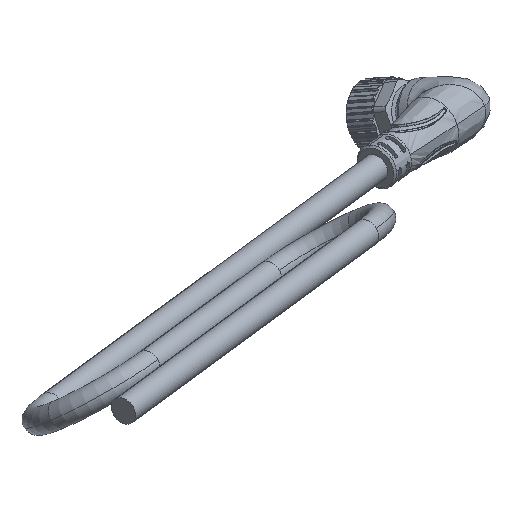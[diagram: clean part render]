
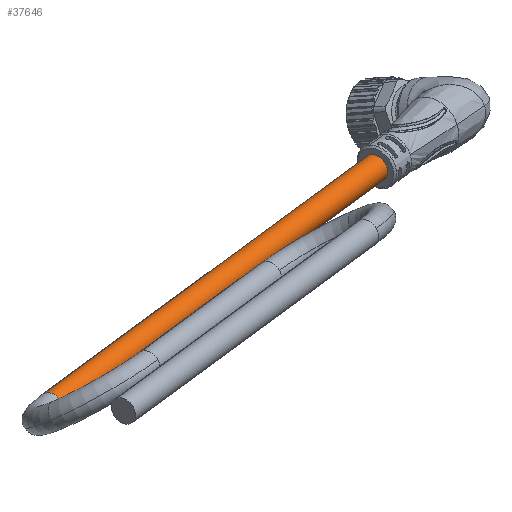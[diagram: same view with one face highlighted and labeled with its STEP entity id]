
A CAD part, isometric view. The second image highlights one B-rep face of the part: STEP entity #37646.
In plain terms, the highlighted cylindrical face has radius 2 mm (diameter 4 mm), a partial arc.
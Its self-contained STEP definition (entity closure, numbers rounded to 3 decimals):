
#498 = DIRECTION ( 'NONE',  ( 0., 0., -1. ) ) ;
#934 = ORIENTED_EDGE ( 'NONE', *, *, #38261, .F. ) ;
#1097 = DIRECTION ( 'NONE',  ( -1., 0., 0. ) ) ;
#2062 = VECTOR ( 'NONE', #29044, 1000. ) ;
#2172 = AXIS2_PLACEMENT_3D ( 'NONE', #12131, #25026, #8673 ) ;
#5734 = CARTESIAN_POINT ( 'NONE',  ( 0., 40., 0. ) ) ;
#5802 = CARTESIAN_POINT ( 'NONE',  ( 2., 40., 0. ) ) ;
#7804 = CARTESIAN_POINT ( 'NONE',  ( 0., 40., -90. ) ) ;
#7987 = CIRCLE ( 'NONE', #11445, 2. ) ;
#8332 = ORIENTED_EDGE ( 'NONE', *, *, #8935, .T. ) ;
#8673 = DIRECTION ( 'NONE',  ( -1., 0., 0. ) ) ;
#8813 = LINE ( 'NONE', #5802, #2062 ) ;
#8935 = EDGE_CURVE ( 'NONE', #22143, #15083, #7987, .T. ) ;
#11142 = EDGE_CURVE ( 'NONE', #19943, #22143, #15254, .T. ) ;
#11445 = AXIS2_PLACEMENT_3D ( 'NONE', #5734, #28973, #12423 ) ;
#12131 = CARTESIAN_POINT ( 'NONE',  ( 0., 40., 0. ) ) ;
#12271 = CARTESIAN_POINT ( 'NONE',  ( 2., 40., 0. ) ) ;
#12423 = DIRECTION ( 'NONE',  ( -1., 0., 0. ) ) ;
#12756 = EDGE_CURVE ( 'NONE', #29635, #15629, #42528, .T. ) ;
#13036 = CARTESIAN_POINT ( 'NONE',  ( -2., 40., -90. ) ) ;
#15083 = VERTEX_POINT ( 'NONE', #40235 ) ;
#15254 = CIRCLE ( 'NONE', #2172, 2. ) ;
#15629 = VERTEX_POINT ( 'NONE', #13036 ) ;
#16244 = LINE ( 'NONE', #39285, #22709 ) ;
#16918 = CARTESIAN_POINT ( 'NONE',  ( 2., 40., -90. ) ) ;
#17308 = CARTESIAN_POINT ( 'NONE',  ( 0., 38., 0. ) ) ;
#19943 = VERTEX_POINT ( 'NONE', #12271 ) ;
#20933 = DIRECTION ( 'NONE',  ( 0., 0., -1. ) ) ;
#21859 = EDGE_LOOP ( 'NONE', ( #934, #22607, #8332, #41439, #31106 ) ) ;
#22143 = VERTEX_POINT ( 'NONE', #17308 ) ;
#22607 = ORIENTED_EDGE ( 'NONE', *, *, #11142, .T. ) ;
#22709 = VECTOR ( 'NONE', #498, 1000. ) ;
#23418 = AXIS2_PLACEMENT_3D ( 'NONE', #37056, #27149, #1097 ) ;
#23725 = FACE_OUTER_BOUND ( 'NONE', #21859, .T. ) ;
#25026 = DIRECTION ( 'NONE',  ( 0., 0., -1. ) ) ;
#27149 = DIRECTION ( 'NONE',  ( 0., 0., -1. ) ) ;
#28973 = DIRECTION ( 'NONE',  ( 0., 0., -1. ) ) ;
#29044 = DIRECTION ( 'NONE',  ( 0., 0., -1. ) ) ;
#29441 = AXIS2_PLACEMENT_3D ( 'NONE', #7804, #20933, #34062 ) ;
#29635 = VERTEX_POINT ( 'NONE', #16918 ) ;
#30572 = EDGE_CURVE ( 'NONE', #15083, #15629, #16244, .T. ) ;
#31106 = ORIENTED_EDGE ( 'NONE', *, *, #12756, .F. ) ;
#33407 = CYLINDRICAL_SURFACE ( 'NONE', #23418, 2. ) ;
#34062 = DIRECTION ( 'NONE',  ( -1., 0., 0. ) ) ;
#37056 = CARTESIAN_POINT ( 'NONE',  ( 0., 40., 0. ) ) ;
#37646 = ADVANCED_FACE ( 'NONE', ( #23725 ), #33407, .T. ) ;
#38261 = EDGE_CURVE ( 'NONE', #19943, #29635, #8813, .T. ) ;
#39285 = CARTESIAN_POINT ( 'NONE',  ( -2., 40., 0. ) ) ;
#40235 = CARTESIAN_POINT ( 'NONE',  ( -2., 40., 0. ) ) ;
#41439 = ORIENTED_EDGE ( 'NONE', *, *, #30572, .T. ) ;
#42528 = CIRCLE ( 'NONE', #29441, 2. ) ;
